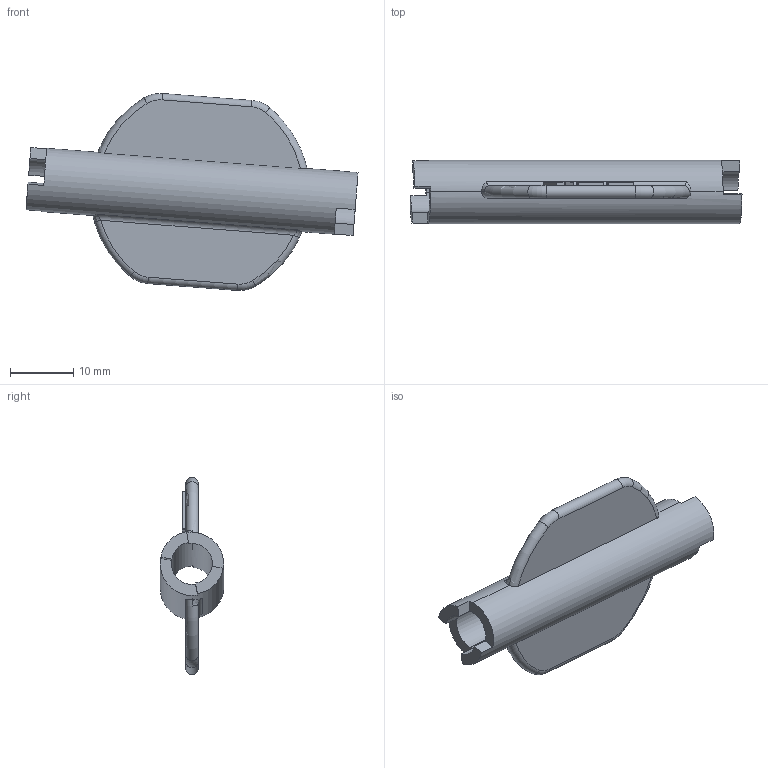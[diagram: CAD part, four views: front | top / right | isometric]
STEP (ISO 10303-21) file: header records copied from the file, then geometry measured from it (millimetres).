
FILE_DESCRIPTION((''),'2;1');
FILE_NAME('0000237135_PRT','2025-11-12T18:36:38',('Wyndorps'),(''),'CREO PARAMETRIC BY PTC INC, 2025010','CREO PARAMETRIC BY PTC INC, 2025010','');
FILE_SCHEMA(('CONFIG_CONTROL_DESIGN'));
Length unit declared in the file: millimetre
Products named in the file (1): 0000237135_PRT
Bounding box: 52.36 x 10 x 31.06 mm (x, y, z)
Volume: 3297.7 mm3; surface area: 3757.6 mm2
Topology: 1 solids, 1 shells, 96 faces, 262 edges, 172 vertices
Faces by surface type: plane 48, extrusion 24, cylinder 12, torus 8, bspline 4
Entity records: 3520 total; most frequent: CARTESIAN_POINT 1142, ORIENTED_EDGE 524, DIRECTION 410, EDGE_CURVE 262, VERTEX_POINT 172, VECTOR 162, LINE 138, AXIS2_PLACEMENT_3D 124
